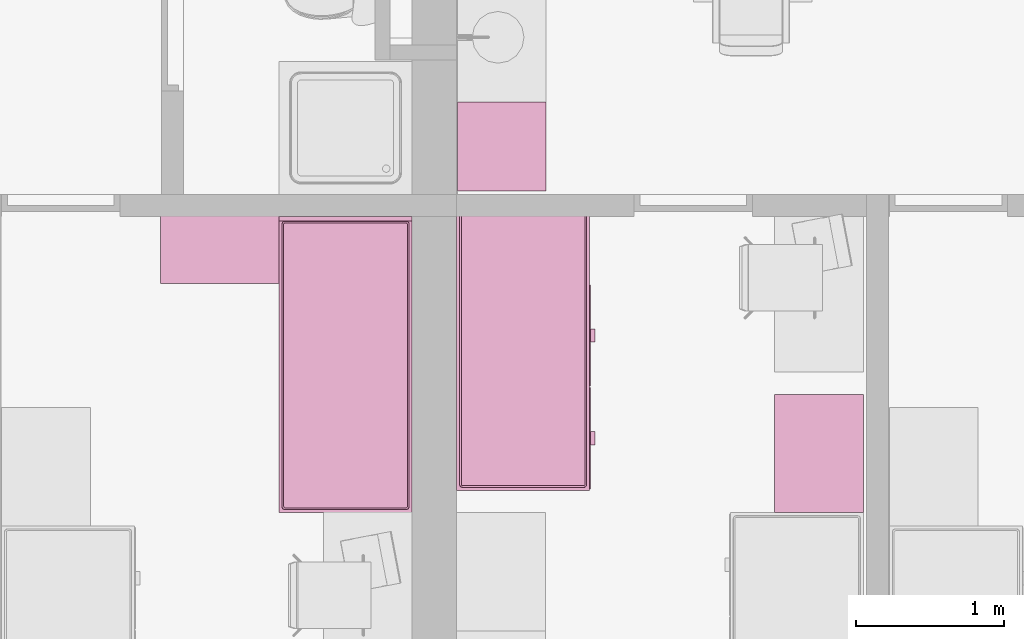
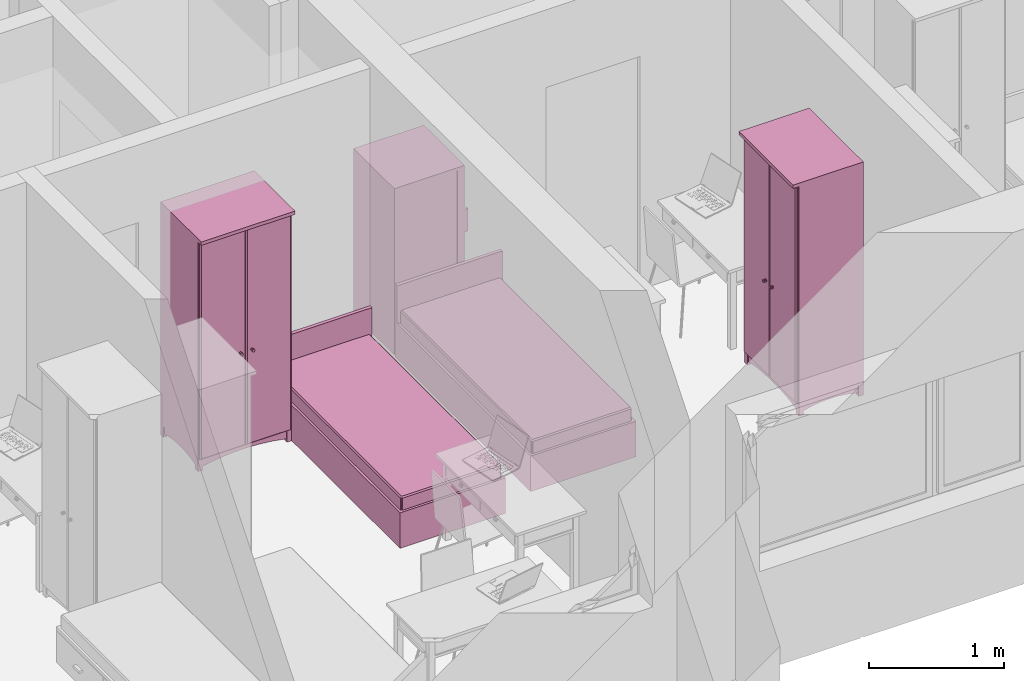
# One storey, part 79 of 165: 5 furnishings.
"""IFC2X3 building model written with IfcOpenShell, lengths in millimetres."""

from ifc_helpers import new_model, entity, si_unit, converted_unit, money_unit, direction, frame, origin_with_axes, place, context, subcontext, project, spatial, open_shell, faceted_brep, surface_model, source, transform, mapped, material, material_list, type_object, element, save


model = new_model("IFC2X3")

# Units and contexts
model_context = context("Model", 3, precision=1e-05, world=origin_with_axes(), true_north=direction((0.0, 1.0)))
body_context = subcontext(model_context, "Body", "Model", "MODEL_VIEW")
ifc_project = project(units=[si_unit("LENGTHUNIT", "METRE", prefix="MILLI"), si_unit("AREAUNIT", "SQUARE_METRE"), si_unit("VOLUMEUNIT", "CUBIC_METRE"), converted_unit("PLANEANGLEUNIT", "DEGREE", entity("IfcPlaneAngleMeasure", 0.0174532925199), si_unit("PLANEANGLEUNIT", "RADIAN"), dimensions=[0, 0, 0, 0, 0, 0, 0]), si_unit("SOLIDANGLEUNIT", "STERADIAN"), money_unit("USD"), converted_unit("TIMEUNIT", "Year", entity("IfcTimeMeasure", 31556926.0), si_unit("TIMEUNIT", "SECOND"), dimensions=[0, 0, 0, 0, 0, 0, 0]), si_unit("MASSUNIT", "GRAM"), si_unit("THERMODYNAMICTEMPERATUREUNIT", "DEGREE_CELSIUS"), si_unit("LUMINOUSINTENSITYUNIT", "LUMEN")], contexts=[model_context])

# Site, building, storey
site_placement = place(None, origin_with_axes())
site = spatial("IfcSite", under=ifc_project, at=site_placement, Name="Site", CompositionType="ELEMENT")
building_placement = place(site_placement, origin_with_axes())
building = spatial("IfcBuilding", under=site, at=building_placement, Name="Building", CompositionType="ELEMENT")
storey_placement = place(building_placement, frame((0.0, 0.0, 6300.0), z_axis=(0.0, 0.0, 1.0), x_axis=(1.0, 0.0, 0.0)))
storey = spatial("IfcBuildingStorey", under=building, at=storey_placement, Name="4KORRUS", CompositionType="ELEMENT", Elevation=6300.0)

# Furnishings
ifc_material = material(Name="Background")
ifc_material_list = material_list([ifc_material])
furnishing_element_type_1 = type_object("IfcFurnishingElementType", Name="Bed 19")
shared_shape_1 = source(origin_with_axes(), body_context, "Body", "Brep", [
    faceted_brep([(900.0, 1970.0, 0.0), (0.0, 1970.0, 0.0), (0.0, 2000.0, 0.0), (900.0, 2000.0, 0.0), (900.0, 1970.0, 660.0), (0.0, 1970.0, 660.0), (0.0, 2000.0, 660.0), (900.0, 2000.0, 660.0)], [[[0, 1, 2, 3]], [[1, 0, 4, 5]], [[2, 1, 5, 6]], [[3, 2, 6, 7]], [[0, 3, 7, 4]], [[5, 4, 7, 6]]]),
    faceted_brep([(900.0, 0.0, 0.0), (0.0, 0.0, 0.0), (0.0, 1970.0, 0.0), (900.0, 1970.0, 0.0), (900.0, 0.0, 320.0), (0.0, 0.0, 320.0), (0.0, 1970.0, 320.0), (900.0, 1970.0, 320.0)], [[[0, 1, 2, 3]], [[1, 0, 4, 5]], [[2, 1, 5, 6]], [[3, 2, 6, 7]], [[0, 3, 7, 4]], [[5, 4, 7, 6]]]),
    faceted_brep([(905.0, 10.0, 30.0), (900.0, 10.0, 30.0), (900.0, 695.0, 30.0), (905.0, 695.0, 30.0), (905.0, 10.0, 290.0), (900.0, 10.0, 290.0), (900.0, 695.0, 290.0), (905.0, 695.0, 290.0)], [[[0, 1, 2, 3]], [[1, 0, 4, 5]], [[2, 1, 5, 6]], [[3, 2, 6, 7]], [[0, 3, 7, 4]], [[5, 4, 7, 6]]]),
    faceted_brep([(935.0, 307.5, 150.0), (905.0, 307.5, 150.0), (905.0, 397.5, 150.0), (935.0, 397.5, 150.0), (935.0, 307.5, 170.0), (905.0, 307.5, 170.0), (905.0, 397.5, 170.0), (935.0, 397.5, 170.0)], [[[0, 1, 2, 3]], [[1, 0, 4, 5]], [[2, 1, 5, 6]], [[3, 2, 6, 7]], [[0, 3, 7, 4]], [[5, 4, 7, 6]]]),
    faceted_brep([(905.0, 705.0, 30.0), (900.0, 705.0, 30.0), (900.0, 1390.0, 30.0), (905.0, 1390.0, 30.0), (905.0, 705.0, 290.0), (900.0, 705.0, 290.0), (900.0, 1390.0, 290.0), (905.0, 1390.0, 290.0)], [[[0, 1, 2, 3]], [[1, 0, 4, 5]], [[2, 1, 5, 6]], [[3, 2, 6, 7]], [[0, 3, 7, 4]], [[5, 4, 7, 6]]]),
    faceted_brep([(935.0, 1002.5, 150.0), (905.0, 1002.5, 150.0), (905.0, 1092.5, 150.0), (935.0, 1092.5, 150.0), (935.0, 1002.5, 170.0), (905.0, 1002.5, 170.0), (905.0, 1092.5, 170.0), (935.0, 1092.5, 170.0)], [[[0, 1, 2, 3]], [[1, 0, 4, 5]], [[2, 1, 5, 6]], [[3, 2, 6, 7]], [[0, 3, 7, 4]], [[5, 4, 7, 6]]]),
    faceted_brep([(20.0, 40.0, 350.0), (20.0, 1950.0, 350.0), (21.522, 1957.654, 350.0), (25.858, 1964.142, 350.0), (32.346, 1968.478, 350.0), (40.0, 1970.0, 350.0), (860.0, 1970.0, 350.0), (867.654, 1968.478, 350.0), (874.142, 1964.142, 350.0), (878.478, 1957.654, 350.0), (880.0, 1950.0, 350.0), (880.0, 40.0, 350.0), (878.478, 32.346, 350.0), (874.142, 25.858, 350.0), (867.654, 21.522, 350.0), (860.0, 20.0, 350.0), (40.0, 20.0, 350.0), (32.346, 21.522, 350.0), (25.858, 25.858, 350.0), (21.522, 32.346, 350.0), (20.0, 40.0, 420.0), (20.0, 1950.0, 420.0), (21.522, 1957.654, 420.0), (25.858, 1964.142, 420.0), (32.346, 1968.478, 420.0), (40.0, 1970.0, 420.0), (860.0, 1970.0, 420.0), (867.654, 1968.478, 420.0), (874.142, 1964.142, 420.0), (878.478, 1957.654, 420.0), (880.0, 1950.0, 420.0), (880.0, 40.0, 420.0), (878.478, 32.346, 420.0), (874.142, 25.858, 420.0), (867.654, 21.522, 420.0), (860.0, 20.0, 420.0), (40.0, 20.0, 420.0), (32.346, 21.522, 420.0), (25.858, 25.858, 420.0), (21.522, 32.346, 420.0), (21.522, 40.15, 427.654), (21.522, 1949.85, 427.654), (22.956, 1957.06, 427.654), (26.955, 1963.045, 427.654), (32.94, 1967.044, 427.654), (40.15, 1968.478, 427.654), (859.85, 1968.478, 427.654), (867.06, 1967.044, 427.654), (873.045, 1963.045, 427.654), (877.044, 1957.06, 427.654), (878.478, 1949.85, 427.654), (878.478, 40.15, 427.654), (877.044, 32.94, 427.654), (873.045, 26.955, 427.654), (867.06, 22.956, 427.654), (859.85, 21.522, 427.654), (40.15, 21.522, 427.654), (32.94, 22.956, 427.654), (26.955, 26.955, 427.654), (22.956, 32.94, 427.654), (32.346, 41.216, 438.478), (32.346, 1948.784, 438.478), (33.152, 1952.836, 438.478), (34.759, 1955.241, 438.478), (37.164, 1956.848, 438.478), (41.216, 1957.654, 438.478), (858.784, 1957.654, 438.478), (862.836, 1956.848, 438.478), (865.241, 1955.241, 438.478), (866.848, 1952.836, 438.478), (867.654, 1948.784, 438.478), (867.654, 41.216, 438.478), (866.848, 37.164, 438.478), (865.241, 34.759, 438.478), (862.836, 33.152, 438.478), (858.784, 32.346, 438.478), (41.216, 32.346, 438.478), (37.164, 33.152, 438.478), (34.759, 34.759, 438.478), (33.152, 37.164, 438.478), (40.0, 41.97, 440.0), (40.0, 1948.03, 440.0), (40.327, 1949.673, 440.0), (40.0, 1950.0, 439.924), (41.97, 1950.0, 440.0), (858.03, 1950.0, 440.0), (859.673, 1949.673, 440.0), (860.0, 1950.0, 439.924), (860.0, 1948.03, 440.0), (860.0, 41.97, 440.0), (859.673, 40.327, 440.0), (860.0, 40.0, 439.924), (858.03, 40.0, 440.0), (41.97, 40.0, 440.0), (40.327, 40.327, 440.0), (40.0, 40.0, 439.924)], [[[0, 1, 2, 3, 4, 5, 6, 7, 8, 9, 10, 11, 12, 13, 14, 15, 16, 17, 18, 19]], [[1, 0, 20, 21]], [[2, 1, 21, 22]], [[3, 2, 22, 23]], [[4, 3, 23, 24]], [[5, 4, 24, 25]], [[6, 5, 25, 26]], [[7, 6, 26, 27]], [[8, 7, 27, 28]], [[9, 8, 28, 29]], [[10, 9, 29, 30]], [[11, 10, 30, 31]], [[12, 11, 31, 32]], [[13, 12, 32, 33]], [[14, 13, 33, 34]], [[15, 14, 34, 35]], [[16, 15, 35, 36]], [[17, 16, 36, 37]], [[18, 17, 37, 38]], [[19, 18, 38, 39]], [[0, 19, 39, 20]], [[21, 20, 40, 41]], [[22, 21, 41, 42]], [[23, 22, 42, 43]], [[24, 23, 43, 44]], [[25, 24, 44, 45]], [[26, 25, 45, 46]], [[27, 26, 46, 47]], [[28, 27, 47, 48]], [[29, 28, 48, 49]], [[30, 29, 49, 50]], [[31, 30, 50, 51]], [[32, 31, 51, 52]], [[33, 32, 52, 53]], [[34, 33, 53, 54]], [[35, 34, 54, 55]], [[36, 35, 55, 56]], [[37, 36, 56, 57]], [[38, 37, 57, 58]], [[39, 38, 58, 59]], [[20, 39, 59, 40]], [[41, 40, 60, 61]], [[42, 41, 61, 62]], [[43, 42, 62, 63]], [[44, 43, 63, 64]], [[45, 44, 64, 65]], [[46, 45, 65, 66]], [[47, 46, 66, 67]], [[48, 47, 67, 68]], [[49, 48, 68, 69]], [[50, 49, 69, 70]], [[51, 50, 70, 71]], [[52, 51, 71, 72]], [[53, 52, 72, 73]], [[54, 53, 73, 74]], [[55, 54, 74, 75]], [[56, 55, 75, 76]], [[57, 56, 76, 77]], [[58, 57, 77, 78]], [[59, 58, 78, 79]], [[40, 59, 79, 60]], [[61, 60, 80, 81]], [[62, 61, 81, 82, 83]], [[63, 62, 83]], [[64, 63, 83]], [[65, 64, 83, 82, 84]], [[66, 65, 84, 85]], [[67, 66, 85, 86, 87]], [[68, 67, 87]], [[69, 68, 87]], [[70, 69, 87, 86, 88]], [[71, 70, 88, 89]], [[72, 71, 89, 90, 91]], [[73, 72, 91]], [[74, 73, 91]], [[75, 74, 91, 90, 92]], [[76, 75, 92, 93]], [[77, 76, 93, 94, 95]], [[78, 77, 95]], [[79, 78, 95]], [[60, 79, 95, 94, 80]], [[81, 80, 94, 93, 92, 90, 89, 88, 86, 85, 84, 82]]]),
    faceted_brep([(20.0, 40.0, 350.0), (21.522, 32.346, 350.0), (25.858, 25.858, 350.0), (32.346, 21.522, 350.0), (40.0, 20.0, 350.0), (860.0, 20.0, 350.0), (867.654, 21.522, 350.0), (874.142, 25.858, 350.0), (878.478, 32.346, 350.0), (880.0, 40.0, 350.0), (880.0, 1950.0, 350.0), (878.478, 1957.654, 350.0), (874.142, 1964.142, 350.0), (867.654, 1968.478, 350.0), (860.0, 1970.0, 350.0), (40.0, 1970.0, 350.0), (32.346, 1968.478, 350.0), (25.858, 1964.142, 350.0), (21.522, 1957.654, 350.0), (20.0, 1950.0, 350.0), (20.0, 40.0, 320.0), (21.522, 32.346, 320.0), (25.858, 25.858, 320.0), (32.346, 21.522, 320.0), (40.0, 20.0, 320.0), (860.0, 20.0, 320.0), (867.654, 21.522, 320.0), (874.142, 25.858, 320.0), (878.478, 32.346, 320.0), (880.0, 40.0, 320.0), (880.0, 1950.0, 320.0), (878.478, 1957.654, 320.0), (874.142, 1964.142, 320.0), (867.654, 1968.478, 320.0), (860.0, 1970.0, 320.0), (40.0, 1970.0, 320.0), (32.346, 1968.478, 320.0), (25.858, 1964.142, 320.0), (21.522, 1957.654, 320.0), (20.0, 1950.0, 320.0)], [[[0, 1, 2, 3, 4, 5, 6, 7, 8, 9, 10, 11, 12, 13, 14, 15, 16, 17, 18, 19]], [[0, 20, 21, 1]], [[1, 21, 22, 2]], [[2, 22, 23, 3]], [[3, 23, 24, 4]], [[4, 24, 25, 5]], [[5, 25, 26, 6]], [[6, 26, 27, 7]], [[7, 27, 28, 8]], [[8, 28, 29, 9]], [[9, 29, 30, 10]], [[10, 30, 31, 11]], [[11, 31, 32, 12]], [[12, 32, 33, 13]], [[13, 33, 34, 14]], [[14, 34, 35, 15]], [[15, 35, 36, 16]], [[16, 36, 37, 17]], [[17, 37, 38, 18]], [[18, 38, 39, 19]], [[19, 39, 20, 0]], [[20, 39, 38, 37, 36, 35, 34, 33, 32, 31, 30, 29, 28, 27, 26, 25, 24, 23, 22, 21]]]),
])
for number, where, z_axis, x_axis, name in (
    (1, (-35990.2967033, -17289.2398994, 0.0), (0.0, 0.0, 1.0), (1.0, 0.0, 0.0), "FU - 013"),
    (2, (-37190.2967033, -17439.2398994, 0.0), (0.0, 0.0, 1.0), (1.0, 0.0, 0.0), "FU - 013"),
):
    element("IfcFurnishingElement", number, at=place(storey_placement, frame(where, z_axis=z_axis, x_axis=x_axis)), inside=storey, type_object=furnishing_element_type_1, material=ifc_material_list, Name=name, context=body_context, shape_type="MappedRepresentation", body=[
        mapped(shared_shape_1, transform((0.0, 0.0, 0.0))),
    ])
furnishing_element_type_2 = type_object("IfcFurnishingElementType", Name="Cupboard 19")
shared_shape_2 = source(origin_with_axes(), body_context, "Body", "Brep", [
    faceted_brep([(780.0, 600.0, 120.0), (780.0, 600.0, 2050.0), (780.0, 580.0, 2050.0), (780.0, 580.0, 120.0), (20.0, 600.0, 120.0), (20.0, 600.0, 2050.0), (20.0, 580.0, 2050.0), (20.0, 580.0, 120.0)], [[[0, 1, 2, 3]], [[4, 5, 1, 0]], [[1, 5, 6, 2]], [[3, 2, 6, 7]], [[0, 3, 7, 4]], [[7, 6, 5, 4]]]),
    faceted_brep([(0.0, 50.0, 100.0), (0.0, 600.0, 100.0), (20.0, 600.0, 100.0), (20.0, 50.0, 100.0), (0.0, 50.0, 2070.0), (0.0, 600.0, 2070.0), (20.0, 600.0, 2070.0), (20.0, 50.0, 2070.0)], [[[0, 1, 2, 3]], [[0, 4, 5, 1]], [[1, 5, 6, 2]], [[2, 6, 7, 3]], [[3, 7, 4, 0]], [[7, 6, 5, 4]]]),
    faceted_brep([(780.0, 50.0, 100.0), (780.0, 600.0, 100.0), (800.0, 600.0, 100.0), (800.0, 50.0, 100.0), (780.0, 50.0, 2070.0), (780.0, 600.0, 2070.0), (800.0, 600.0, 2070.0), (800.0, 50.0, 2070.0)], [[[0, 1, 2, 3]], [[0, 4, 5, 1]], [[1, 5, 6, 2]], [[2, 6, 7, 3]], [[3, 7, 4, 0]], [[7, 6, 5, 4]]]),
    faceted_brep([(20.0, 50.0, 100.0), (20.0, 600.0, 100.0), (780.0, 600.0, 100.0), (780.0, 50.0, 100.0), (20.0, 50.0, 120.0), (20.0, 600.0, 120.0), (780.0, 600.0, 120.0), (780.0, 50.0, 120.0)], [[[0, 1, 2, 3]], [[0, 4, 5, 1]], [[1, 5, 6, 2]], [[2, 6, 7, 3]], [[3, 7, 4, 0]], [[7, 6, 5, 4]]]),
    faceted_brep([(20.0, 50.0, 2050.0), (20.0, 600.0, 2050.0), (780.0, 600.0, 2050.0), (780.0, 50.0, 2050.0), (20.0, 50.0, 2070.0), (20.0, 600.0, 2070.0), (780.0, 600.0, 2070.0), (780.0, 50.0, 2070.0)], [[[0, 1, 2, 3]], [[0, 4, 5, 1]], [[1, 5, 6, 2]], [[2, 6, 7, 3]], [[3, 7, 4, 0]], [[7, 6, 5, 4]]]),
    faceted_brep([(0.0, 600.0, 2070.0), (0.0, 0.0, 2070.0), (0.0, 0.0, 2100.0), (0.0, 600.0, 2100.0), (800.0, 600.0, 2070.0), (800.0, 0.0, 2070.0), (800.0, 0.0, 2100.0), (800.0, 600.0, 2100.0)], [[[0, 1, 2, 3]], [[0, 4, 5, 1]], [[1, 5, 6, 2]], [[3, 2, 6, 7]], [[4, 0, 3, 7]], [[5, 4, 7, 6]]]),
    faceted_brep([(760.0, 590.0, 25.0), (760.0, 570.0, 25.0), (640.962, 570.0, 45.8), (640.962, 590.0, 45.8), (760.0, 590.0, 100.0), (760.0, 570.0, 100.0), (40.0, 570.0, 100.0), (40.0, 570.0, 25.0), (159.038, 570.0, 45.8), (279.23, 570.0, 58.32), (400.0, 570.0, 62.5), (520.77, 570.0, 58.32), (520.77, 590.0, 58.32), (400.0, 590.0, 62.5), (279.23, 590.0, 58.32), (159.038, 590.0, 45.8), (40.0, 590.0, 25.0), (40.0, 590.0, 100.0)], [[[0, 1, 2, 3]], [[4, 5, 1, 0]], [[1, 5, 6, 7, 8, 9, 10, 11, 2]], [[3, 2, 11, 12]], [[0, 3, 12, 13, 14, 15, 16, 17, 4]], [[17, 6, 5, 4]], [[16, 7, 6, 17]], [[15, 8, 7, 16]], [[14, 9, 8, 15]], [[13, 10, 9, 14]], [[12, 11, 10, 13]]]),
    faceted_brep([(760.0, 80.0, 25.0), (760.0, 60.0, 25.0), (640.962, 60.0, 45.8), (640.962, 80.0, 45.8), (760.0, 80.0, 100.0), (760.0, 60.0, 100.0), (40.0, 60.0, 100.0), (40.0, 60.0, 25.0), (159.038, 60.0, 45.8), (279.23, 60.0, 58.32), (400.0, 60.0, 62.5), (520.77, 60.0, 58.32), (520.77, 80.0, 58.32), (400.0, 80.0, 62.5), (279.23, 80.0, 58.32), (159.038, 80.0, 45.8), (40.0, 80.0, 25.0), (40.0, 80.0, 100.0)], [[[0, 1, 2, 3]], [[4, 5, 1, 0]], [[1, 5, 6, 7, 8, 9, 10, 11, 2]], [[3, 2, 11, 12]], [[0, 3, 12, 13, 14, 15, 16, 17, 4]], [[17, 6, 5, 4]], [[16, 7, 6, 17]], [[15, 8, 7, 16]], [[14, 9, 8, 15]], [[13, 10, 9, 14]], [[12, 11, 10, 13]]]),
    faceted_brep([(790.0, 90.0, 25.0), (770.0, 90.0, 25.0), (770.0, 141.266, 38.072), (790.0, 141.266, 38.072), (790.0, 90.0, 100.0), (770.0, 90.0, 100.0), (770.0, 560.0, 100.0), (770.0, 560.0, 25.0), (770.0, 508.734, 38.072), (770.0, 456.752, 47.92), (770.0, 404.257, 54.508), (770.0, 351.453, 57.808), (770.0, 298.547, 57.808), (770.0, 245.743, 54.508), (770.0, 193.248, 47.92), (790.0, 193.248, 47.92), (790.0, 245.743, 54.508), (790.0, 298.547, 57.808), (790.0, 351.453, 57.808), (790.0, 404.257, 54.508), (790.0, 456.752, 47.92), (790.0, 508.734, 38.072), (790.0, 560.0, 25.0), (790.0, 560.0, 100.0)], [[[0, 1, 2, 3]], [[4, 5, 1, 0]], [[1, 5, 6, 7, 8, 9, 10, 11, 12, 13, 14, 2]], [[3, 2, 14, 15]], [[0, 3, 15, 16, 17, 18, 19, 20, 21, 22, 23, 4]], [[23, 6, 5, 4]], [[22, 7, 6, 23]], [[21, 8, 7, 22]], [[20, 9, 8, 21]], [[19, 10, 9, 20]], [[18, 11, 10, 19]], [[17, 12, 11, 18]], [[16, 13, 12, 17]], [[15, 14, 13, 16]]]),
    faceted_brep([(30.0, 90.0, 25.0), (10.0, 90.0, 25.0), (10.0, 141.266, 38.072), (30.0, 141.266, 38.072), (30.0, 90.0, 100.0), (10.0, 90.0, 100.0), (10.0, 560.0, 100.0), (10.0, 560.0, 25.0), (10.0, 508.734, 38.072), (10.0, 456.752, 47.92), (10.0, 404.257, 54.508), (10.0, 351.453, 57.808), (10.0, 298.547, 57.808), (10.0, 245.743, 54.508), (10.0, 193.248, 47.92), (30.0, 193.248, 47.92), (30.0, 245.743, 54.508), (30.0, 298.547, 57.808), (30.0, 351.453, 57.808), (30.0, 404.257, 54.508), (30.0, 456.752, 47.92), (30.0, 508.734, 38.072), (30.0, 560.0, 25.0), (30.0, 560.0, 100.0)], [[[0, 1, 2, 3]], [[4, 5, 1, 0]], [[1, 5, 6, 7, 8, 9, 10, 11, 12, 13, 14, 2]], [[3, 2, 14, 15]], [[0, 3, 15, 16, 17, 18, 19, 20, 21, 22, 23, 4]], [[23, 6, 5, 4]], [[22, 7, 6, 23]], [[21, 8, 7, 22]], [[20, 9, 8, 21]], [[19, 10, 9, 20]], [[18, 11, 10, 19]], [[17, 12, 11, 18]], [[16, 13, 12, 17]], [[15, 14, 13, 16]]]),
    faceted_brep([(760.0, 560.0, 0.0), (760.0, 560.0, 100.0), (760.0, 600.0, 100.0), (760.0, 600.0, 0.0), (800.0, 560.0, 0.0), (800.0, 560.0, 100.0), (800.0, 600.0, 100.0), (800.0, 600.0, 0.0)], [[[0, 1, 2, 3]], [[4, 5, 1, 0]], [[1, 5, 6, 2]], [[3, 2, 6, 7]], [[0, 3, 7, 4]], [[7, 6, 5, 4]]]),
    faceted_brep([(0.0, 560.0, 0.0), (0.0, 560.0, 100.0), (0.0, 600.0, 100.0), (0.0, 600.0, 0.0), (40.0, 560.0, 0.0), (40.0, 560.0, 100.0), (40.0, 600.0, 100.0), (40.0, 600.0, 0.0)], [[[0, 1, 2, 3]], [[4, 5, 1, 0]], [[1, 5, 6, 2]], [[3, 2, 6, 7]], [[0, 3, 7, 4]], [[7, 6, 5, 4]]]),
    faceted_brep([(760.0, 50.0, 0.0), (760.0, 50.0, 100.0), (760.0, 90.0, 100.0), (760.0, 90.0, 0.0), (800.0, 50.0, 0.0), (800.0, 50.0, 100.0), (800.0, 90.0, 100.0), (800.0, 90.0, 0.0)], [[[0, 1, 2, 3]], [[4, 5, 1, 0]], [[1, 5, 6, 2]], [[3, 2, 6, 7]], [[0, 3, 7, 4]], [[7, 6, 5, 4]]]),
    faceted_brep([(0.0, 50.0, 0.0), (0.0, 50.0, 100.0), (0.0, 90.0, 100.0), (0.0, 90.0, 0.0), (40.0, 50.0, 0.0), (40.0, 50.0, 100.0), (40.0, 90.0, 100.0), (40.0, 90.0, 0.0)], [[[0, 1, 2, 3]], [[4, 5, 1, 0]], [[1, 5, 6, 2]], [[3, 2, 6, 7]], [[0, 3, 7, 4]], [[7, 6, 5, 4]]]),
    faceted_brep([(780.0, 580.0, 587.5), (780.0, 580.0, 607.5), (780.0, 50.0, 607.5), (780.0, 50.0, 587.5), (20.0, 580.0, 587.5), (20.0, 580.0, 607.5), (20.0, 50.0, 607.5), (20.0, 50.0, 587.5)], [[[0, 1, 2, 3]], [[4, 5, 1, 0]], [[1, 5, 6, 2]], [[3, 2, 6, 7]], [[0, 3, 7, 4]], [[7, 6, 5, 4]]]),
    faceted_brep([(780.0, 580.0, 1075.0), (780.0, 580.0, 1095.0), (780.0, 50.0, 1095.0), (780.0, 50.0, 1075.0), (20.0, 580.0, 1075.0), (20.0, 580.0, 1095.0), (20.0, 50.0, 1095.0), (20.0, 50.0, 1075.0)], [[[0, 1, 2, 3]], [[4, 5, 1, 0]], [[1, 5, 6, 2]], [[3, 2, 6, 7]], [[0, 3, 7, 4]], [[7, 6, 5, 4]]]),
    faceted_brep([(780.0, 580.0, 1562.5), (780.0, 580.0, 1582.5), (780.0, 50.0, 1582.5), (780.0, 50.0, 1562.5), (20.0, 580.0, 1562.5), (20.0, 580.0, 1582.5), (20.0, 50.0, 1582.5), (20.0, 50.0, 1562.5)], [[[0, 1, 2, 3]], [[4, 5, 1, 0]], [[1, 5, 6, 2]], [[3, 2, 6, 7]], [[0, 3, 7, 4]], [[7, 6, 5, 4]]]),
    faceted_brep([(789.5, 50.0, 110.5), (400.5, 50.0, 110.5), (400.5, 50.0, 2059.5), (789.5, 50.0, 2059.5), (789.5, 40.0, 110.5), (400.5, 40.0, 110.5), (400.5, 40.0, 2059.5), (789.5, 40.0, 2059.5), (779.5, 30.0, 120.5), (410.5, 30.0, 120.5), (410.5, 30.0, 2049.5), (779.5, 30.0, 2049.5)], [[[0, 1, 2, 3]], [[0, 4, 5, 1]], [[1, 5, 6, 2]], [[2, 6, 7, 3]], [[3, 7, 4, 0]], [[4, 8, 9, 5]], [[5, 9, 10, 6]], [[6, 10, 11, 7]], [[7, 11, 8, 4]], [[10, 9, 8, 11]]]),
    faceted_brep([(399.5, 50.0, 110.5), (10.5, 50.0, 110.5), (10.5, 50.0, 2059.5), (399.5, 50.0, 2059.5), (399.5, 40.0, 110.5), (10.5, 40.0, 110.5), (10.5, 40.0, 2059.5), (399.5, 40.0, 2059.5), (389.5, 30.0, 120.5), (20.5, 30.0, 120.5), (20.5, 30.0, 2049.5), (389.5, 30.0, 2049.5)], [[[0, 1, 2, 3]], [[0, 4, 5, 1]], [[1, 5, 6, 2]], [[2, 6, 7, 3]], [[3, 7, 4, 0]], [[4, 8, 9, 5]], [[5, 9, 10, 6]], [[6, 10, 11, 7]], [[7, 11, 8, 4]], [[10, 9, 8, 11]]]),
    faceted_brep([(339.608, 30.0, 954.0), (338.0, 30.0, 960.0), (339.608, 30.0, 966.0), (344.0, 30.0, 970.392), (350.0, 30.0, 972.0), (356.0, 30.0, 970.392), (360.392, 30.0, 966.0), (362.0, 30.0, 960.0), (360.392, 30.0, 954.0), (356.0, 30.0, 949.608), (350.0, 30.0, 948.0), (344.0, 30.0, 949.608), (339.608, 5.0, 954.0), (338.0, 5.0, 960.0), (339.608, 5.0, 966.0), (344.0, 5.0, 970.392), (350.0, 5.0, 972.0), (356.0, 5.0, 970.392), (360.392, 5.0, 966.0), (362.0, 5.0, 960.0), (360.392, 5.0, 954.0), (356.0, 5.0, 949.608), (350.0, 5.0, 948.0), (344.0, 5.0, 949.608)], [[[0, 1, 2, 3, 4, 5, 6, 7, 8, 9, 10, 11]], [[0, 12, 13, 1]], [[1, 13, 14, 2]], [[2, 14, 15, 3]], [[3, 15, 16, 4]], [[4, 16, 17, 5]], [[5, 17, 18, 6]], [[6, 18, 19, 7]], [[7, 19, 20, 8]], [[8, 20, 21, 9]], [[9, 21, 22, 10]], [[10, 22, 23, 11]], [[11, 23, 12, 0]], [[12, 23, 22, 21, 20, 19, 18, 17, 16, 15, 14, 13]]]),
    faceted_brep([(460.392, 30.0, 954.0), (456.0, 30.0, 949.608), (450.0, 30.0, 948.0), (444.0, 30.0, 949.608), (439.608, 30.0, 954.0), (438.0, 30.0, 960.0), (439.608, 30.0, 966.0), (444.0, 30.0, 970.392), (450.0, 30.0, 972.0), (456.0, 30.0, 970.392), (460.392, 30.0, 966.0), (462.0, 30.0, 960.0), (460.392, 5.0, 954.0), (456.0, 5.0, 949.608), (450.0, 5.0, 948.0), (444.0, 5.0, 949.608), (439.608, 5.0, 954.0), (438.0, 5.0, 960.0), (439.608, 5.0, 966.0), (444.0, 5.0, 970.392), (450.0, 5.0, 972.0), (456.0, 5.0, 970.392), (460.392, 5.0, 966.0), (462.0, 5.0, 960.0)], [[[0, 1, 2, 3, 4, 5, 6, 7, 8, 9, 10, 11]], [[1, 0, 12, 13]], [[2, 1, 13, 14]], [[3, 2, 14, 15]], [[4, 3, 15, 16]], [[5, 4, 16, 17]], [[6, 5, 17, 18]], [[7, 6, 18, 19]], [[8, 7, 19, 20]], [[9, 8, 20, 21]], [[10, 9, 21, 22]], [[11, 10, 22, 23]], [[0, 11, 23, 12]], [[12, 23, 22, 21, 20, 19, 18, 17, 16, 15, 14, 13]]]),
])
for number, where, z_axis, x_axis, name in (
    (3, (-33840.2967033, -16639.2398994, 0.0), (0.0, 0.0, 1.0), (0.0, -1.0, 0.0), "FU - 014"),
    (4, (-37990.2967033, -15889.2398994, 0.0), (0.0, 0.0, 1.0), (1.0, 0.0, 0.0), "FU - 014"),
):
    element("IfcFurnishingElement", number, at=place(storey_placement, frame(where, z_axis=z_axis, x_axis=x_axis)), inside=storey, type_object=furnishing_element_type_2, material=ifc_material_list, Name=name, context=body_context, shape_type="MappedRepresentation", body=[
        mapped(shared_shape_2, transform((0.0, 0.0, 0.0))),
    ])
furnishing_element_type_3 = type_object("IfcFurnishingElementType", Name="Refrigerator 19")
shared_shape_3 = source(origin_with_axes(), body_context, "Body", "SurfaceModel", [
    faceted_brep([(0.0, 0.0, 1475.0), (0.0, 0.0, 1500.0), (-600.0, 0.0, 1500.0), (-600.0, 0.0, 1475.0), (0.0, 600.0, 1475.0), (0.0, 600.0, 1500.0), (-600.0, 600.0, 1500.0), (-600.0, 600.0, 1475.0)], [[[0, 1, 2, 3]], [[4, 5, 1, 0]], [[1, 5, 6, 2]], [[3, 2, 6, 7]], [[0, 3, 7, 4]], [[7, 6, 5, 4]]]),
    faceted_brep([(0.0, 65.0, 0.0), (0.0, 65.0, 1475.0), (-600.0, 65.0, 1475.0), (-600.0, 65.0, 0.0), (0.0, 600.0, 0.0), (0.0, 600.0, 1475.0), (-600.0, 600.0, 1475.0), (-600.0, 600.0, 0.0)], [[[0, 1, 2, 3]], [[4, 5, 1, 0]], [[1, 5, 6, 2]], [[3, 2, 6, 7]], [[0, 3, 7, 4]], [[7, 6, 5, 4]]]),
    faceted_brep([(0.0, 30.0, 0.0), (0.0, 30.0, 90.0), (-600.0, 30.0, 90.0), (-600.0, 30.0, 0.0), (0.0, 60.0, 0.0), (0.0, 60.0, 90.0), (-600.0, 60.0, 90.0), (-600.0, 60.0, 0.0)], [[[0, 1, 2, 3]], [[4, 5, 1, 0]], [[1, 5, 6, 2]], [[3, 2, 6, 7]], [[0, 3, 7, 4]], [[7, 6, 5, 4]]]),
    faceted_brep([(0.0, 60.0, 90.0), (0.0, 0.0, 90.0), (-600.0, 0.0, 90.0), (-600.0, 60.0, 90.0), (0.0, 60.0, 1474.5), (0.0, 0.0, 1474.5), (-600.0, 0.0, 1474.5), (-600.0, 60.0, 1474.5)], [[[0, 1, 2, 3]], [[4, 5, 1, 0]], [[1, 5, 6, 2]], [[3, 2, 6, 7]], [[0, 3, 7, 4]], [[7, 6, 5, 4]]]),
    surface_model("IfcShellBasedSurfaceModel", [(-600.0, -30.0, 900.0), (-600.0, 0.0, 900.0), (-600.0, 0.0, 1100.0), (-600.0, -30.0, 1100.0)], [open_shell([[[0, 1, 2, 3]]])]),
    surface_model("IfcShellBasedSurfaceModel", [(-600.0, -30.0, 900.0), (-570.0, -30.0, 900.0), (-570.0, -30.0, 1100.0), (-600.0, -30.0, 1100.0)], [open_shell([[[0, 1, 2, 3]]])]),
])
furnishing_placement = place(storey_placement, frame((-35384.008308, -14664.7705299, 0.0), z_axis=(0.0, 0.0, 1.0), x_axis=(0.0, 1.0, 0.0)))
element("IfcFurnishingElement", 5, at=furnishing_placement, inside=storey, type_object=furnishing_element_type_3, material=ifc_material_list, Name="FU - 007", context=body_context, shape_type="MappedRepresentation", body=[
    mapped(shared_shape_3, transform((0.0, 0.0, 0.0))),
])

save(model, "model.ifc")
